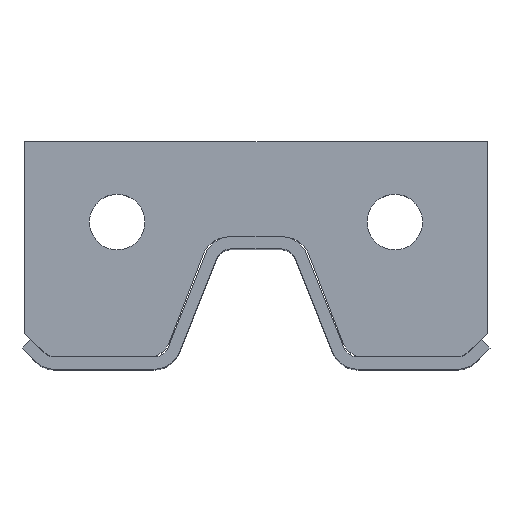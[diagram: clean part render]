
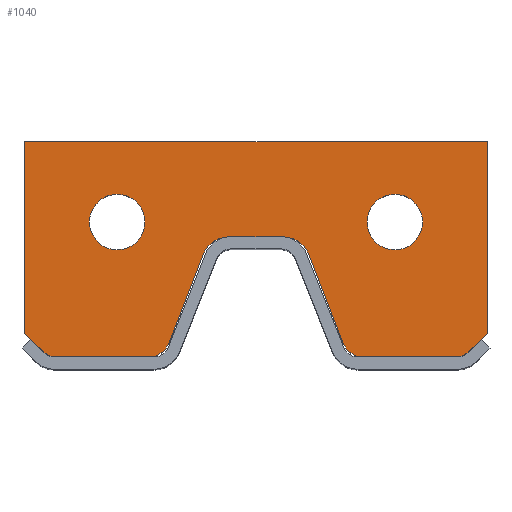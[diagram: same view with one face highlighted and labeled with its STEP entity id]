
A CAD part, top view. The second image highlights one B-rep face of the part: STEP entity #1040.
In plain terms, the highlighted planar face has unit normal (0, 0, 1).
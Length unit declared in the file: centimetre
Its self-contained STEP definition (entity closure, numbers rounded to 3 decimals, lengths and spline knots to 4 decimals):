
#26=FACE_BOUND('',#157,.T.);
#27=FACE_BOUND('',#158,.T.);
#48=PLANE('',#1129);
#94=FACE_OUTER_BOUND('',#156,.T.);
#156=EDGE_LOOP('',(#874,#875,#876,#877,#878,#879,#880,#881,#882,#883,#884,
#885,#886,#887,#888,#889));
#157=EDGE_LOOP('',(#890));
#158=EDGE_LOOP('',(#891));
#212=CIRCLE('',#1130,0.8);
#213=CIRCLE('',#1131,0.8);
#214=CIRCLE('',#1132,0.8);
#215=CIRCLE('',#1133,0.8);
#216=CIRCLE('',#1134,0.8);
#217=CIRCLE('',#1135,0.8);
#218=CIRCLE('',#1136,0.9);
#219=CIRCLE('',#1137,0.9);
#292=LINE('',#1671,#394);
#293=LINE('',#1673,#395);
#294=LINE('',#1675,#396);
#295=LINE('',#1679,#397);
#296=LINE('',#1683,#398);
#297=LINE('',#1687,#399);
#298=LINE('',#1691,#400);
#299=LINE('',#1695,#401);
#300=LINE('',#1699,#402);
#301=LINE('',#1700,#403);
#394=VECTOR('',#1365,0.1);
#395=VECTOR('',#1366,0.1);
#396=VECTOR('',#1367,0.1);
#397=VECTOR('',#1370,0.1);
#398=VECTOR('',#1373,0.1);
#399=VECTOR('',#1376,0.1);
#400=VECTOR('',#1379,0.1);
#401=VECTOR('',#1382,0.1);
#402=VECTOR('',#1385,0.1);
#403=VECTOR('',#1386,0.1);
#496=VERTEX_POINT('',#1669);
#497=VERTEX_POINT('',#1670);
#498=VERTEX_POINT('',#1672);
#499=VERTEX_POINT('',#1674);
#500=VERTEX_POINT('',#1676);
#501=VERTEX_POINT('',#1678);
#502=VERTEX_POINT('',#1680);
#503=VERTEX_POINT('',#1682);
#504=VERTEX_POINT('',#1684);
#505=VERTEX_POINT('',#1686);
#506=VERTEX_POINT('',#1688);
#507=VERTEX_POINT('',#1690);
#508=VERTEX_POINT('',#1692);
#509=VERTEX_POINT('',#1694);
#510=VERTEX_POINT('',#1696);
#511=VERTEX_POINT('',#1698);
#512=VERTEX_POINT('',#1701);
#513=VERTEX_POINT('',#1703);
#628=EDGE_CURVE('',#496,#497,#292,.T.);
#629=EDGE_CURVE('',#497,#498,#293,.T.);
#630=EDGE_CURVE('',#498,#499,#294,.T.);
#631=EDGE_CURVE('',#499,#500,#212,.T.);
#632=EDGE_CURVE('',#500,#501,#295,.T.);
#633=EDGE_CURVE('',#501,#502,#213,.T.);
#634=EDGE_CURVE('',#502,#503,#296,.T.);
#635=EDGE_CURVE('',#503,#504,#214,.T.);
#636=EDGE_CURVE('',#504,#505,#297,.T.);
#637=EDGE_CURVE('',#505,#506,#215,.T.);
#638=EDGE_CURVE('',#506,#507,#298,.T.);
#639=EDGE_CURVE('',#507,#508,#216,.T.);
#640=EDGE_CURVE('',#508,#509,#299,.T.);
#641=EDGE_CURVE('',#509,#510,#217,.T.);
#642=EDGE_CURVE('',#510,#511,#300,.T.);
#643=EDGE_CURVE('',#511,#496,#301,.T.);
#644=EDGE_CURVE('',#512,#512,#218,.T.);
#645=EDGE_CURVE('',#513,#513,#219,.T.);
#874=ORIENTED_EDGE('',*,*,#628,.T.);
#875=ORIENTED_EDGE('',*,*,#629,.T.);
#876=ORIENTED_EDGE('',*,*,#630,.T.);
#877=ORIENTED_EDGE('',*,*,#631,.T.);
#878=ORIENTED_EDGE('',*,*,#632,.T.);
#879=ORIENTED_EDGE('',*,*,#633,.T.);
#880=ORIENTED_EDGE('',*,*,#634,.T.);
#881=ORIENTED_EDGE('',*,*,#635,.T.);
#882=ORIENTED_EDGE('',*,*,#636,.T.);
#883=ORIENTED_EDGE('',*,*,#637,.T.);
#884=ORIENTED_EDGE('',*,*,#638,.T.);
#885=ORIENTED_EDGE('',*,*,#639,.T.);
#886=ORIENTED_EDGE('',*,*,#640,.T.);
#887=ORIENTED_EDGE('',*,*,#641,.T.);
#888=ORIENTED_EDGE('',*,*,#642,.T.);
#889=ORIENTED_EDGE('',*,*,#643,.T.);
#890=ORIENTED_EDGE('',*,*,#644,.T.);
#891=ORIENTED_EDGE('',*,*,#645,.T.);
#1040=ADVANCED_FACE('',(#94,#26,#27),#48,.T.);
#1129=AXIS2_PLACEMENT_3D('',#1668,#1363,#1364);
#1130=AXIS2_PLACEMENT_3D('',#1677,#1368,#1369);
#1131=AXIS2_PLACEMENT_3D('',#1681,#1371,#1372);
#1132=AXIS2_PLACEMENT_3D('',#1685,#1374,#1375);
#1133=AXIS2_PLACEMENT_3D('',#1689,#1377,#1378);
#1134=AXIS2_PLACEMENT_3D('',#1693,#1380,#1381);
#1135=AXIS2_PLACEMENT_3D('',#1697,#1383,#1384);
#1136=AXIS2_PLACEMENT_3D('',#1702,#1387,#1388);
#1137=AXIS2_PLACEMENT_3D('',#1704,#1389,#1390);
#1363=DIRECTION('center_axis',(0.,0.,1.));
#1364=DIRECTION('ref_axis',(1.,0.,0.));
#1365=DIRECTION('',(-1.,0.,0.));
#1366=DIRECTION('',(0.,-1.,0.));
#1367=DIRECTION('',(0.707,-0.707,0.));
#1368=DIRECTION('center_axis',(0.,0.,1.));
#1369=DIRECTION('ref_axis',(-0.707,-0.707,0.));
#1370=DIRECTION('',(1.,0.,0.));
#1371=DIRECTION('center_axis',(0.,0.,1.));
#1372=DIRECTION('ref_axis',(0.,-1.,0.));
#1373=DIRECTION('',(0.359,0.933,0.));
#1374=DIRECTION('center_axis',(0.,0.,-1.));
#1375=DIRECTION('ref_axis',(-0.933,0.359,0.));
#1376=DIRECTION('',(1.,0.,0.));
#1377=DIRECTION('center_axis',(0.,0.,-1.));
#1378=DIRECTION('ref_axis',(0.,1.,0.));
#1379=DIRECTION('',(0.359,-0.933,0.));
#1380=DIRECTION('center_axis',(0.,0.,1.));
#1381=DIRECTION('ref_axis',(-0.933,-0.359,0.));
#1382=DIRECTION('',(1.,0.,0.));
#1383=DIRECTION('center_axis',(0.,0.,1.));
#1384=DIRECTION('ref_axis',(0.,-1.,0.));
#1385=DIRECTION('',(0.707,0.707,0.));
#1386=DIRECTION('',(0.,1.,0.));
#1387=DIRECTION('center_axis',(0.,0.,-1.));
#1388=DIRECTION('ref_axis',(1.,0.,0.));
#1389=DIRECTION('center_axis',(0.,0.,-1.));
#1390=DIRECTION('ref_axis',(1.,0.,0.));
#1668=CARTESIAN_POINT('Origin',(64.0042,159.8304,0.2));
#1669=CARTESIAN_POINT('',(71.5042,163.0396,0.2));
#1670=CARTESIAN_POINT('',(56.5042,163.0396,0.2));
#1671=CARTESIAN_POINT('',(71.5042,163.0396,0.2));
#1672=CARTESIAN_POINT('',(56.5042,156.8396,0.2));
#1673=CARTESIAN_POINT('',(56.5042,163.0396,0.2));
#1674=CARTESIAN_POINT('',(57.0699,156.2739,0.2));
#1675=CARTESIAN_POINT('',(56.5042,156.8396,0.2));
#1676=CARTESIAN_POINT('',(57.6356,156.0396,0.2));
#1677=CARTESIAN_POINT('Origin',(57.6356,156.8396,0.2));
#1678=CARTESIAN_POINT('',(60.4548,156.0396,0.2));
#1679=CARTESIAN_POINT('',(57.6356,156.0396,0.2));
#1680=CARTESIAN_POINT('',(61.2015,156.5524,0.2));
#1681=CARTESIAN_POINT('Origin',(60.4548,156.8396,0.2));
#1682=CARTESIAN_POINT('',(62.307,159.4268,0.2));
#1683=CARTESIAN_POINT('',(61.2015,156.5524,0.2));
#1684=CARTESIAN_POINT('',(63.0537,159.9396,0.2));
#1685=CARTESIAN_POINT('Origin',(63.0537,159.1396,0.2));
#1686=CARTESIAN_POINT('',(64.9548,159.9396,0.2));
#1687=CARTESIAN_POINT('',(63.0537,159.9396,0.2));
#1688=CARTESIAN_POINT('',(65.7015,159.4268,0.2));
#1689=CARTESIAN_POINT('Origin',(64.9548,159.1396,0.2));
#1690=CARTESIAN_POINT('',(66.807,156.5524,0.2));
#1691=CARTESIAN_POINT('',(65.7015,159.4268,0.2));
#1692=CARTESIAN_POINT('',(67.5537,156.0396,0.2));
#1693=CARTESIAN_POINT('Origin',(67.5537,156.8396,0.2));
#1694=CARTESIAN_POINT('',(70.3729,156.0396,0.2));
#1695=CARTESIAN_POINT('',(67.5537,156.0396,0.2));
#1696=CARTESIAN_POINT('',(70.9386,156.2739,0.2));
#1697=CARTESIAN_POINT('Origin',(70.3729,156.8396,0.2));
#1698=CARTESIAN_POINT('',(71.5042,156.8396,0.2));
#1699=CARTESIAN_POINT('',(70.9386,156.2739,0.2));
#1700=CARTESIAN_POINT('',(71.5042,156.8396,0.2));
#1701=CARTESIAN_POINT('',(58.6042,160.4396,0.2));
#1702=CARTESIAN_POINT('Origin',(59.5042,160.4396,0.2));
#1703=CARTESIAN_POINT('',(67.6042,160.4396,0.2));
#1704=CARTESIAN_POINT('Origin',(68.5042,160.4396,0.2));
